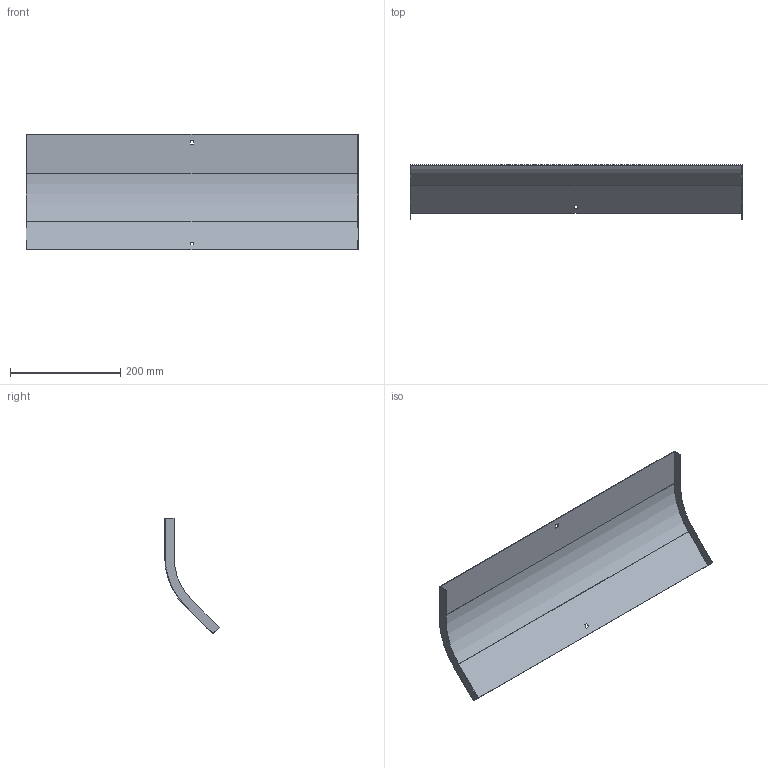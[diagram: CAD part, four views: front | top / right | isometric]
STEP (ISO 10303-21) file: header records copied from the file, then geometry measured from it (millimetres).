
FILE_DESCRIPTION (( 'STEP AP214' ), '1' );
FILE_NAME ('OD4_607.step', '2025-07-16T09:12:29', ( '' ), ( '' ), 'SwSTEP 2.0', 'SolidWorks 2023', '' );
FILE_SCHEMA (( 'AUTOMOTIVE_DESIGN' ));
Length unit declared in the file: millimetre
Products named in the file (1): OD4_607
Bounding box: 602 x 99.13 x 210.3 mm (x, y, z)
Volume: 152222.1 mm3; surface area: 306220.3 mm2
Topology: 1 solids, 1 shells, 26 faces, 72 edges, 48 vertices
Faces by surface type: plane 22, cylinder 4
Entity records: 855 total; most frequent: CARTESIAN_POINT 147, ORIENTED_EDGE 144, DIRECTION 134, EDGE_CURVE 72, LINE 64, VECTOR 64, VERTEX_POINT 48, AXIS2_PLACEMENT_3D 35
